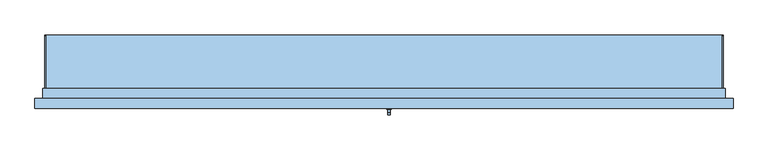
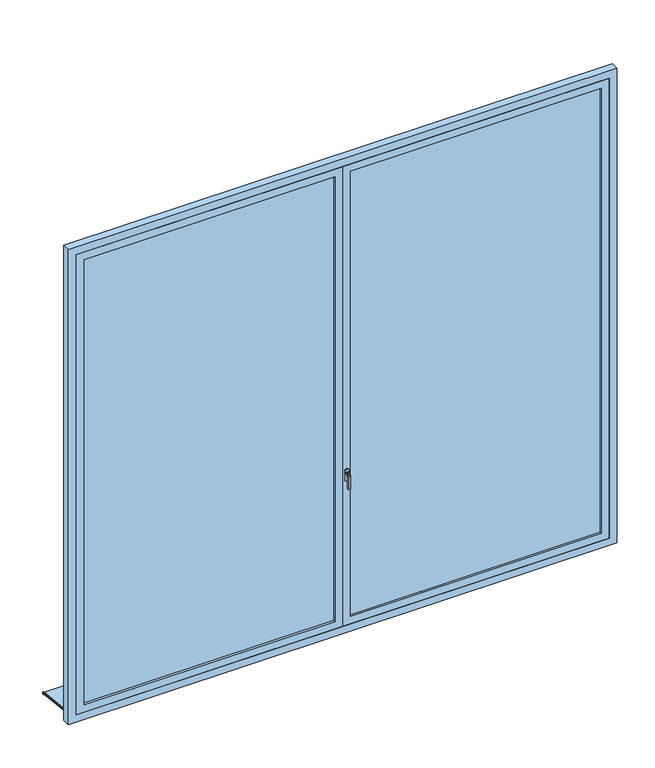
"""IFC4 building model written with IfcOpenShell, lengths in millimetres: window geometry, Fenêtres - PF 2 Vantaux - Droits - 3.40 x 3.15."""

from ifc_helpers import new_model, si_unit, point, frame, frame_2d, origin, place, context, project, spatial, polyline, circle_curve, trimmed, segment, composite_curve, outline, extrude, faceted_brep, source, transform, mapped, element, save


def window_7f9bbf53(model_context):
    return source(origin(), model_context, "Body", "SolidModel", [
        extrude(outline(polyline([(690.0288776, 9.7719484), (690.0288776, -1.3062541), (685.0288776, -0.7807329), (685.0288776, 5.0422578), (400.0, 35.0), (400.0, 50.0), (405.0, 50.0), (405.0, 39.7296906), (690.0288776, 9.7719484)])), frame((50.0, 0.0, 0.0), z_axis=(1.0, 0.0, 0.0), x_axis=(0.0, 1.0, 0.0)), (0.0, 0.0, 1.0), 3400.0),
        extrude(outline(composite_curve([segment(polyline([(690.0288776, 9.7719484), (405.0, 39.7296906), (405.0, 44.757232), (686.4469915, 15.1759612)]), True, "CONTINUOUS"), segment(trimmed(circle_curve(frame_2d((686.0288776, 11.1978736)), 4.0), [point((686.4469915, 15.1759612))], [point((690.0288776, 11.1978736))], False, "CARTESIAN"), True, "CONTINUOUS"), segment(polyline([(690.0288776, 11.1978736), (690.0288776, 9.7719484)]), True, "CONTINUOUS")], self_intersect=False)), frame((50.0, 0.0, 0.0), z_axis=(1.0, 0.0, 0.0), x_axis=(0.0, 1.0, 0.0)), (0.0, 0.0, 1.0), 5.0),
        extrude(outline(composite_curve([segment(polyline([(690.0288776, 9.7719484), (405.0, 39.7296906), (405.0, 44.757232), (686.4469915, 15.1759612)]), True, "CONTINUOUS"), segment(trimmed(circle_curve(frame_2d((686.0288776, 11.1978736)), 4.0), [point((686.4469915, 15.1759612))], [point((690.0288776, 11.1978736))], False, "CARTESIAN"), True, "CONTINUOUS"), segment(polyline([(690.0288776, 11.1978736), (690.0288776, 9.7719484)]), True, "CONTINUOUS")], self_intersect=False)), frame((3445.0, 0.0, 0.0), z_axis=(1.0, 0.0, 0.0), x_axis=(0.0, 1.0, 0.0)), (0.0, 0.0, 1.0), 5.0),
        extrude(outline(polyline([(85.0, 1750.0), (3185.0, 1750.0), (3185.0, 50.0), (85.0, 50.0), (85.0, 1750.0)]), holes=[polyline([(135.0, 100.0), (3135.0, 100.0), (3135.0, 1700.0), (135.0, 1700.0), (135.0, 100.0)])]), frame((0.0, 320.0, 0.0), z_axis=(0.0, 1.0, 0.0), x_axis=(0.0, 0.0, 1.0)), (0.0, 0.0, 1.0), 40.0),
        extrude(outline(polyline([(1800.0, 346.0), (3400.0, 346.0), (3400.0, 334.0), (1800.0, 334.0), (1800.0, 346.0)])), frame((0.0, 0.0, 135.0), z_axis=(0.0, 0.0, 1.0), x_axis=(1.0, 0.0, 0.0)), (0.0, 0.0, 1.0), 3000.0),
        extrude(outline(polyline([(100.0, 346.0), (1700.0, 346.0), (1700.0, 334.0), (100.0, 334.0), (100.0, 346.0)])), frame((0.0, 0.0, 135.0), z_axis=(0.0, 0.0, 1.0), x_axis=(1.0, 0.0, 0.0)), (0.0, 0.0, 1.0), 3000.0),
        extrude(outline(polyline([(85.0, 3450.0), (3185.0, 3450.0), (3185.0, 1750.0), (85.0, 1750.0), (85.0, 3450.0)]), holes=[polyline([(135.0, 1800.0), (3135.0, 1800.0), (3135.0, 3400.0), (135.0, 3400.0), (135.0, 1800.0)])]), frame((0.0, 320.0, 0.0), z_axis=(0.0, 1.0, 0.0), x_axis=(0.0, 0.0, 1.0)), (0.0, 0.0, 1.0), 40.0),
        extrude(outline(polyline([(35.0, 40.0), (35.0, 50.0), (3185.0, 50.0), (3185.0, 3450.0), (35.0, 3450.0), (35.0, 3460.0), (3195.0, 3460.0), (3195.0, 40.0), (35.0, 40.0)])), frame((0.0, 370.0, 0.0), z_axis=(0.0, 1.0, 0.0), x_axis=(0.0, 0.0, 1.0)), (0.0, 0.0, 1.0), 50.0),
        extrude(outline(polyline([(1770.0, 368.0), (1770.0, 360.0), (1730.0, 360.0), (1730.0, 368.0), (1770.0, 368.0)])), frame((0.0, 0.0, 100.0), z_axis=(0.0, 0.0, 1.0), x_axis=(1.0, 0.0, 0.0)), (0.0, 0.0, 1.0), 3070.0),
        faceted_brep([(1769.3539903, 314.0, 1122.0339292), (1780.6460097, 314.0, 1122.0339292), (1782.0339292, 314.0, 1120.6460097), (1782.0339292, 314.0, 1109.3323012), (1780.6676988, 314.0, 1107.9660708), (1769.3323012, 314.0, 1107.9660708), (1767.9660708, 314.0, 1109.3323012), (1767.9660708, 314.0, 1120.6460097), (1782.0339292, 301.6613462, 1120.6460097), (1780.6460097, 301.0864511, 1122.0339292), (1782.0339292, 306.3476377, 1109.3323012), (1782.0339292, 288.3539903, 1107.3386538), (1782.0339292, 288.3539903, 1020.0), (1782.0339292, 299.6676988, 1020.0), (1782.0339292, 299.6676988, 1102.6523623), (1780.6676988, 306.9135489, 1107.9660708), (1769.3323012, 306.9135489, 1107.9660708), (1767.9660708, 306.3476377, 1109.3323012), (1767.9660708, 301.6613462, 1120.6460097), (1767.9660708, 299.6676988, 1102.6523623), (1767.9660708, 299.6676988, 1020.0), (1767.9660708, 288.3539903, 1020.0), (1767.9660708, 288.3539903, 1107.3386538), (1769.3539903, 301.0864511, 1122.0339292), (1780.6460097, 286.9660708, 1107.9135489), (1780.6676988, 301.0339292, 1102.0864511), (1769.3323012, 301.0339292, 1102.0864511), (1769.3539903, 286.9660708, 1107.9135489), (1780.6460097, 286.9660708, 1020.0), (1769.3539903, 286.9660708, 1020.0), (1769.3323012, 301.0339292, 1020.0), (1780.6676988, 301.0339292, 1020.0)], [[[0, 1, 2, 3, 4, 5, 6, 7]], [[8, 2, 1, 9]], [[10, 3, 2, 8, 11, 12, 13, 14]], [[15, 4, 3, 10]], [[16, 5, 4, 15]], [[17, 6, 5, 16]], [[18, 7, 6, 17, 19, 20, 21, 22]], [[23, 0, 7, 18]], [[9, 1, 0, 23]], [[11, 8, 9, 24]], [[25, 15, 10, 14]], [[26, 16, 15, 25]], [[19, 17, 16, 26]], [[27, 23, 18, 22]], [[24, 9, 23, 27]], [[12, 28, 29, 21, 20, 30, 31, 13]], [[12, 11, 24, 28]], [[31, 25, 14, 13]], [[30, 26, 25, 31]], [[20, 19, 26, 30]], [[29, 27, 22, 21]], [[28, 24, 27, 29]]]),
        faceted_brep([(3500.0, 320.0, 35.0), (0.0, 320.0, 35.0), (0.0, 370.0, 35.0), (50.0, 370.0, 35.0), (50.0, 400.0, 35.0), (3450.0, 400.0, 35.0), (3450.0, 370.0, 35.0), (3500.0, 370.0, 35.0), (0.0, 370.0, 3235.0), (0.0, 320.0, 3235.0), (3500.0, 370.0, 3235.0), (3450.0, 370.0, 74.3761425), (50.0, 370.0, 74.3761425), (3435.0, 370.0, 3170.0), (65.0, 370.0, 3170.0), (65.0, 370.0, 100.0), (3435.0, 370.0, 100.0), (50.0, 420.0, 60.9786829), (50.0, 420.0, 45.0), (50.0, 410.0, 45.0), (50.0, 410.0, 50.0), (50.0, 400.0, 50.0), (3450.0, 400.0, 50.0), (3450.0, 410.0, 50.0), (3450.0, 410.0, 45.0), (3450.0, 420.0, 45.0), (3450.0, 420.0, 60.9786829), (3500.0, 320.0, 3235.0), (50.0, 320.0, 3185.0), (3450.0, 320.0, 3185.0), (3450.0, 320.0, 85.0), (50.0, 320.0, 85.0), (65.0, 360.0, 3170.0), (65.0, 360.0, 100.0), (3435.0, 360.0, 100.0), (3435.0, 360.0, 3170.0), (3450.0, 360.0, 85.0), (3450.0, 360.0, 3185.0), (50.0, 360.0, 3185.0), (50.0, 360.0, 85.0)], [[[0, 1, 2, 3, 4, 5, 6, 7]], [[8, 2, 1, 9]], [[3, 2, 8, 10, 7, 6, 11, 12], [13, 14, 15, 16]], [[3, 12, 17, 18, 19, 20, 21, 4]], [[5, 4, 21, 22]], [[6, 5, 22, 23, 24, 25, 26, 11]], [[0, 7, 10, 27]], [[9, 1, 0, 27], [28, 29, 30, 31]], [[15, 14, 32, 33]], [[15, 33, 34, 16]], [[34, 35, 13, 16]], [[26, 17, 12, 11]], [[36, 37, 38, 39], [33, 32, 35, 34]], [[31, 39, 38, 28]], [[39, 31, 30, 36]], [[30, 29, 37, 36]], [[25, 18, 17, 26]], [[24, 19, 18, 25]], [[23, 20, 19, 24]], [[22, 21, 20, 23]], [[32, 14, 13, 35]], [[27, 10, 8, 9]], [[28, 38, 37, 29]]]),
        extrude(outline(polyline([(1140.0, 1782.0), (1140.0, 1768.0), (1135.0, 1763.0), (1065.0, 1763.0), (1060.0, 1768.0), (1060.0, 1782.0), (1065.0, 1787.0), (1135.0, 1787.0), (1140.0, 1782.0)])), frame((0.0, 314.0, 0.0), z_axis=(0.0, 1.0, 0.0), x_axis=(0.0, 0.0, 1.0)), (0.0, 0.0, 1.0), 6.0),
    ])


if __name__ == "__main__":
    model = new_model("IFC4")
    model_context = context("Model", 3, world=origin())
    ifc_project = project(units=[si_unit("LENGTHUNIT", "METRE", prefix="MILLI")], contexts=[model_context])
    site = spatial("IfcSite", under=ifc_project)
    building = spatial("IfcBuilding", under=site)
    placement = place(None, origin())
    window_shape = window_7f9bbf53(model_context)
    element("IfcWindow", 1, ObjectType="Fenêtres - PF 2 Vantaux - Droits - 3.40 x 3.15", at=placement, inside=building, context=model_context, shape_type="MappedRepresentation", body=[
        mapped(window_shape, transform((0.0, 0.0, 0.0), x_axis=(1.0, 0.0, 0.0), y_axis=(0.0, 1.0, 0.0), z_axis=(0.0, 0.0, 1.0))),
    ])
    save(model, "model.ifc")
